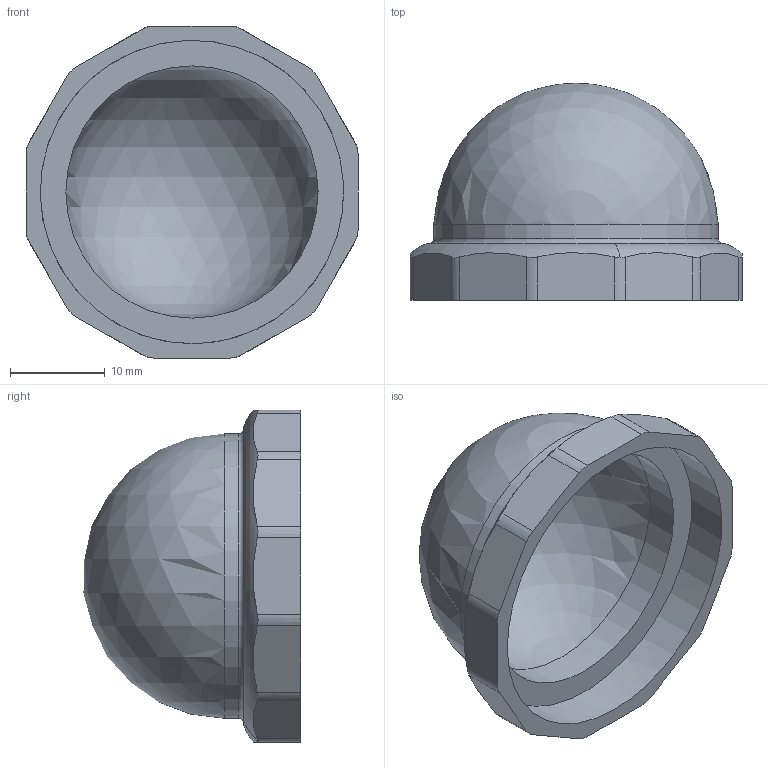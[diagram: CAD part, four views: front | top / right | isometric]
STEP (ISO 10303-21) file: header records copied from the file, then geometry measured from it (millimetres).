
FILE_DESCRIPTION (( 'STEP AP203' ), '1' );
FILE_NAME ('DiGi Module XT3 & 6 - Cover - Dome.STEP', '2025-08-28T06:39:52', ( '' ), ( '' ), 'SwSTEP 2.0', 'SolidWorks 2025', '' );
FILE_SCHEMA (( 'CONFIG_CONTROL_DESIGN' ));
Length unit declared in the file: millimetre
Products named in the file (1): DiGi Module XT3 & 6 - Cover - Dome
Bounding box: 35 x 22.89 x 35 mm (x, y, z)
Volume: 3792.7 mm3; surface area: 4720.5 mm2
Topology: 1 solids, 1 shells, 37 faces, 103 edges, 67 vertices
Faces by surface type: plane 15, cylinder 15, torus 5, sphere 2
Full cylindrical faces by diameter (mm): 26.6 x1, 30 x1, 32 x1
Entity records: 1425 total; most frequent: CARTESIAN_POINT 493, ORIENTED_EDGE 180, DIRECTION 166, EDGE_CURVE 90, AXIS2_PLACEMENT_3D 65, VERTEX_POINT 62, EDGE_LOOP 44, FACE_OUTER_BOUND 41
